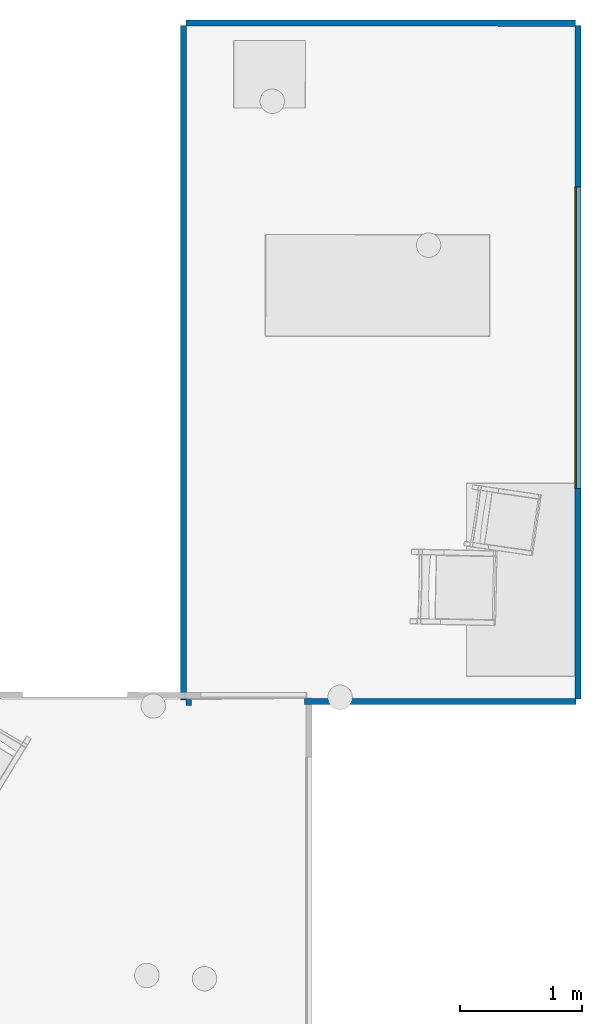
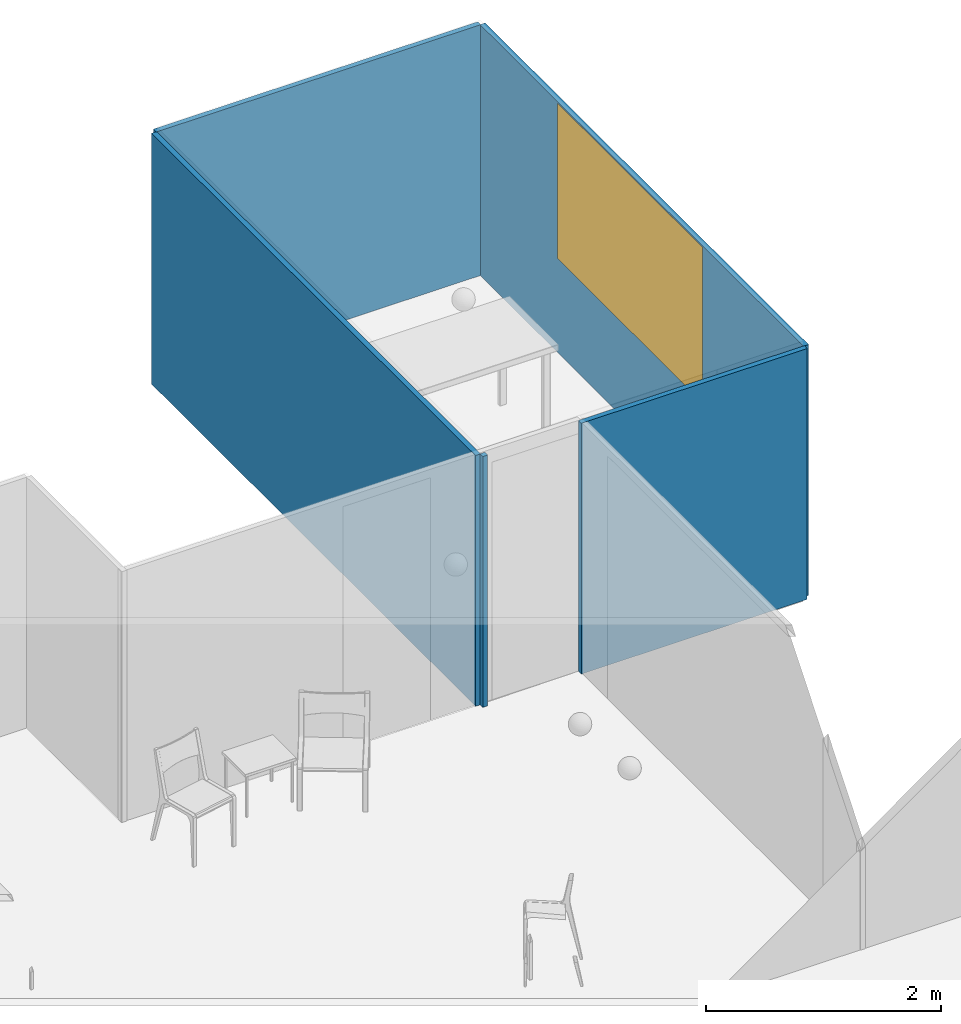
# One storey, part 2 of 12: 5 walls, 1 window, 1 opening.
"""IFC2X3 building model written with IfcOpenShell, lengths in metres."""

from ifc_helpers import new_model, si_unit, direction, frame, origin_with_axes, place, context, subcontext, project, spatial, polyline, outline, extrude, type_object, element, fill, save


model = new_model("IFC2X3")

# Units and contexts
model_context = context("Model", 3, precision=1e-05, world=origin_with_axes(), true_north=direction((0.999, -0.05, 0.0)))
body_context = subcontext(model_context, "Body", "Model", "MODEL_VIEW")
ifc_project = project(units=[si_unit("LENGTHUNIT", "METRE"), si_unit("AREAUNIT", "SQUARE_METRE")], contexts=[model_context])

# Site, building, storey
site_placement = place(None, origin_with_axes())
site = spatial("IfcSite", under=ifc_project, at=site_placement, Name="Site", CompositionType="ELEMENT")
building_placement = place(site_placement, origin_with_axes())
building = spatial("IfcBuilding", under=site, at=building_placement, Name="Building", CompositionType="ELEMENT")
storey_placement = place(building_placement, frame((0.0, 0.0, 5.96046447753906e-08), z_axis=(0.0, 0.0, 1.0), x_axis=(1.0, 0.0, 0.0)))
storey = spatial("IfcBuildingStorey", under=building, at=storey_placement, Name="Story 0", CompositionType="ELEMENT", Elevation=5.96046447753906e-08)

# Wall, opening, window
wall_type_1 = type_object("IfcWallType", PredefinedType="STANDARD")
wall_1_placement = place(storey_placement, frame((6.64588342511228, 7.81939836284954, 0.0), z_axis=(0.0, 0.0, 1.00000003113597), x_axis=(0.000421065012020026, 0.999999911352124, 0.0)))
wall_1 = element("IfcWallStandardCase", 1, at=wall_1_placement, inside=storey, type_object=wall_type_1, Name="Wall", context=body_context, shape_type="SweptSolid", body=[
    extrude(outline(polyline([(-9.84455572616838e-17, 0.0), (-9.84455572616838e-17, 2.6018055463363), (5.5036706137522, 2.6018055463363), (5.5036706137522, 0.0), (-9.84455572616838e-17, 0.0)])), frame((0.0, 0.0, 0.0), z_axis=(0.0, 1.0, 0.0), x_axis=(-1.0, 0.0, 0.0)), (0.0, 0.0, -1.0), 0.05),
])
opening_placement = place(wall_1_placement, frame((-1.31726294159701, 0.0, 0.975017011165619), z_axis=(0.0, 0.0, 1.00000003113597), x_axis=(1.0, 0.0, 0.0)))
opening = element("IfcOpeningElement", 2, at=opening_placement, cuts=wall_1, Name="OpeningElement", ObjectType="OPENING", context=body_context, shape_type="SweptSolid", body=[
    extrude(outline(polyline([(-5.72458747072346e-17, 0.0), (2.4648256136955, 0.0), (2.4648256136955, 1.61100716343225), (-5.72458747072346e-17, 1.61100716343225), (-5.72458747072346e-17, 0.0)])), frame((0.0, 0.0, 0.0), z_axis=(0.0, 1.0, 0.0), x_axis=(-1.0, 0.0, 0.0)), (0.0, 0.0, -1.0), 0.05),
])
window_style = type_object("IfcWindowStyle", Name="2449bbd4-5413-4185-bfb1-c57dad8c2df6", ConstructionType="ALUMINIUM", OperationType="SINGLE_PANEL", ParameterTakesPrecedence=True, Sizeable=True)
window_placement = place(opening_placement, origin_with_axes())
window = element("IfcWindow", 3, at=window_placement, inside=storey, type_object=window_style, Name="Window", OverallHeight=1.5, OverallWidth=0.5, context=body_context, shape_type="SweptSolid", body=[
    extrude(outline(polyline([(-5.72458747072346e-17, 0.0), (2.4648256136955, 0.0), (2.4648256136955, 1.61100716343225), (-5.72458747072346e-17, 1.61100716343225), (-5.72458747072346e-17, 0.0)])), frame((0.0, 0.0, 0.0), z_axis=(0.0, 1.0, 0.0), x_axis=(-1.0, 0.0, 0.0)), (0.0, 0.0, -1.0), 0.01),
])
fill(opening, window)

# Walls
wall_type_2 = type_object("IfcWallType", PredefinedType="STANDARD")
wall_2_placement = place(storey_placement, frame((4.43695107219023, 2.32165808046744, 2.60180562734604), z_axis=(0.0, 0.0, 0.999999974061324), x_axis=(0.999999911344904, -0.000421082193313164, 0.0)))
element("IfcWallStandardCase", 4, at=wall_2_placement, inside=storey, type_object=wall_type_2, Name="Wall", context=body_context, shape_type="SweptSolid", body=[
    extrude(outline(polyline([(0.0, 0.0), (-2.2166171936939, 0.0), (-2.2166171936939, -2.60180569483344), (0.0, -2.60180569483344), (0.0, 0.0)])), frame((0.0, 0.0, 0.0), z_axis=(0.0, 1.0, 0.0), x_axis=(-1.0, 0.0, 0.0)), (0.0, 0.0, -1.0), 0.05),
])
wall_type_3 = type_object("IfcWallType", PredefinedType="STANDARD")
wall_3_placement = place(storey_placement, frame((3.46760899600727, 7.81573801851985, 0.0), z_axis=(0.0, 0.0, 1.00000005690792), x_axis=(-0.999999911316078, 0.000421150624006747, 0.0)))
element("IfcWallStandardCase", 5, at=wall_3_placement, inside=storey, type_object=wall_type_3, Name="Wall", context=body_context, shape_type="SweptSolid", body=[
    extrude(outline(polyline([(0.0, 0.0), (0.0, 2.60180547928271), (3.18327333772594, 2.60180547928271), (3.18327333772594, 0.0), (0.0, 0.0)])), frame((0.0, 0.0, 0.0), z_axis=(0.0, 1.0, 0.0), x_axis=(-1.0, 0.0, 0.0)), (0.0, 0.0, -1.0), 0.05),
])
wall_type_4 = type_object("IfcWallType", PredefinedType="STANDARD")
wall_4_placement = place(storey_placement, frame((3.47028933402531, 2.30722118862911, 0.0), z_axis=(0.0, 0.0, 1.00000007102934), x_axis=(-0.000420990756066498, -0.99999991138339, 0.0)))
element("IfcWallStandardCase", 6, at=wall_4_placement, inside=storey, type_object=wall_type_4, Name="Wall", context=body_context, shape_type="SweptSolid", body=[
    extrude(outline(polyline([(-1.06251812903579e-16, 0.0), (-1.06251812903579e-16, 2.60180544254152), (5.5135142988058, 2.60180544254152), (5.5135142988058, 0.0), (-1.06251812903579e-16, 0.0)])), frame((0.0, 0.0, 0.0), z_axis=(0.0, 1.0, 0.0), x_axis=(-1.0, 0.0, 0.0)), (0.0, 0.0, -1.0), 0.05),
])
wall_type_5 = type_object("IfcWallType", PredefinedType="STANDARD")
wall_5_placement = place(storey_placement, frame((3.5125828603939, 2.31220383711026, 0.0), z_axis=(0.0, 0.0, 1.00000003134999), x_axis=(0.999999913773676, -0.000415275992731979, 0.0)))
element("IfcWallStandardCase", 7, at=wall_5_placement, inside=storey, type_object=wall_type_5, Name="Wall", context=body_context, shape_type="SweptSolid", body=[
    extrude(outline(polyline([(0.0, 0.0), (0.0, 2.60180554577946), (0.0472911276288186, 2.60180554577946), (0.0472911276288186, 0.0), (0.0, 0.0)])), frame((0.0, 0.0, 0.0), z_axis=(0.0, 1.0, 0.0), x_axis=(-1.0, 0.0, 0.0)), (0.0, 0.0, -1.0), 0.05),
])

save(model, "model.ifc")
